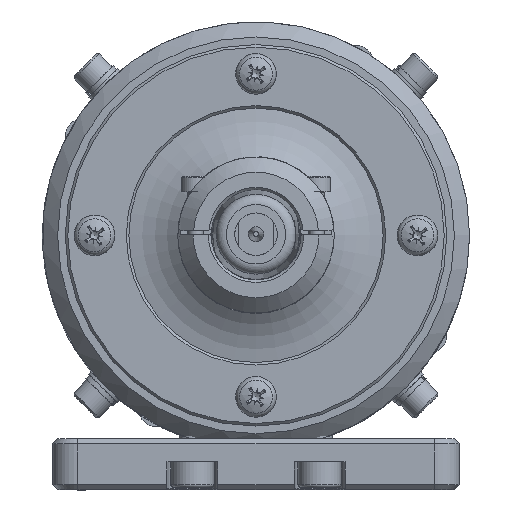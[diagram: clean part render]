
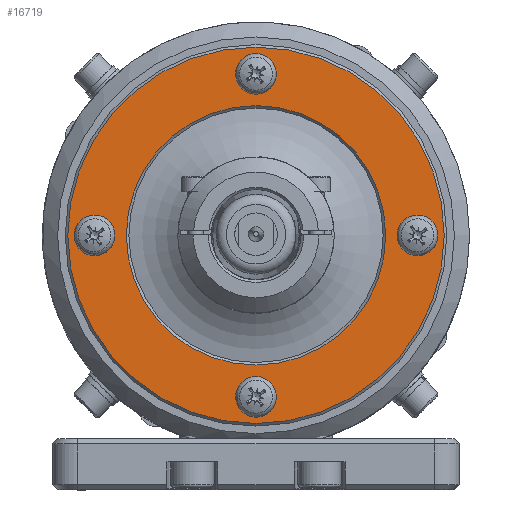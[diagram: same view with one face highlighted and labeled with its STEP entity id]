
A CAD part, top view. The second image highlights one B-rep face of the part: STEP entity #16719.
In plain terms, the highlighted planar face has unit normal (0, 0, 1).
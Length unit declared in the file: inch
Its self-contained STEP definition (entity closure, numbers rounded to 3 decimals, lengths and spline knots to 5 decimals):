
#536=FACE_BOUND('',#2703,.T.);
#537=FACE_BOUND('',#2704,.T.);
#538=FACE_BOUND('',#2705,.T.);
#539=FACE_BOUND('',#2706,.T.);
#540=FACE_BOUND('',#2707,.T.);
#770=PLANE('',#17988);
#1629=FACE_OUTER_BOUND('',#2702,.T.);
#2702=EDGE_LOOP('',(#11505));
#2703=EDGE_LOOP('',(#11506));
#2704=EDGE_LOOP('',(#11507));
#2705=EDGE_LOOP('',(#11508));
#2706=EDGE_LOOP('',(#11509));
#2707=EDGE_LOOP('',(#11510));
#5997=CIRCLE('',#17987,1.45669);
#5998=CIRCLE('',#17989,1.00394);
#5999=CIRCLE('',#17990,0.08858);
#6000=CIRCLE('',#17991,0.08858);
#6001=CIRCLE('',#17992,0.08858);
#6002=CIRCLE('',#17993,0.08858);
#7004=VERTEX_POINT('',#26043);
#7005=VERTEX_POINT('',#26047);
#7006=VERTEX_POINT('',#26049);
#7007=VERTEX_POINT('',#26051);
#7008=VERTEX_POINT('',#26053);
#7009=VERTEX_POINT('',#26055);
#8682=EDGE_CURVE('',#7004,#7004,#5997,.T.);
#8683=EDGE_CURVE('',#7005,#7005,#5998,.T.);
#8684=EDGE_CURVE('',#7006,#7006,#5999,.T.);
#8685=EDGE_CURVE('',#7007,#7007,#6000,.T.);
#8686=EDGE_CURVE('',#7008,#7008,#6001,.T.);
#8687=EDGE_CURVE('',#7009,#7009,#6002,.T.);
#11505=ORIENTED_EDGE('',*,*,#8682,.F.);
#11506=ORIENTED_EDGE('',*,*,#8683,.F.);
#11507=ORIENTED_EDGE('',*,*,#8684,.T.);
#11508=ORIENTED_EDGE('',*,*,#8685,.T.);
#11509=ORIENTED_EDGE('',*,*,#8686,.T.);
#11510=ORIENTED_EDGE('',*,*,#8687,.T.);
#16719=ADVANCED_FACE('',(#1629,#536,#537,#538,#539,#540),#770,.T.);
#17987=AXIS2_PLACEMENT_3D('',#26045,#20583,#20584);
#17988=AXIS2_PLACEMENT_3D('',#26046,#20585,#20586);
#17989=AXIS2_PLACEMENT_3D('',#26048,#20587,#20588);
#17990=AXIS2_PLACEMENT_3D('',#26050,#20589,#20590);
#17991=AXIS2_PLACEMENT_3D('',#26052,#20591,#20592);
#17992=AXIS2_PLACEMENT_3D('',#26054,#20593,#20594);
#17993=AXIS2_PLACEMENT_3D('',#26056,#20595,#20596);
#20583=DIRECTION('center_axis',(0.,0.,
-1.));
#20584=DIRECTION('ref_axis',(0.,1.,0.));
#20585=DIRECTION('center_axis',(0.,0.,
1.));
#20586=DIRECTION('ref_axis',(0.,-1.,0.));
#20587=DIRECTION('center_axis',(0.,0.,
1.));
#20588=DIRECTION('ref_axis',(0.,1.,0.));
#20589=DIRECTION('center_axis',(0.,0.,
-1.));
#20590=DIRECTION('ref_axis',(0.,-1.,0.));
#20591=DIRECTION('center_axis',(0.,0.,
-1.));
#20592=DIRECTION('ref_axis',(0.,-1.,0.));
#20593=DIRECTION('center_axis',(0.,0.,
-1.));
#20594=DIRECTION('ref_axis',(0.,-1.,0.));
#20595=DIRECTION('center_axis',(0.,0.,
-1.));
#20596=DIRECTION('ref_axis',(0.,-1.,0.));
#26043=CARTESIAN_POINT('',(0.,-1.45669,0.66929));
#26045=CARTESIAN_POINT('Origin',(0.,0.,
0.66929));
#26046=CARTESIAN_POINT('Origin',(0.,0.,
0.66929));
#26047=CARTESIAN_POINT('',(0.,-1.00394,0.66929));
#26048=CARTESIAN_POINT('Origin',(0.,0.,
0.66929));
#26049=CARTESIAN_POINT('',(-1.25,0.08858,0.66929));
#26050=CARTESIAN_POINT('Origin',(-1.25,0.,0.66929));
#26051=CARTESIAN_POINT('',(1.25,0.08858,0.66929));
#26052=CARTESIAN_POINT('Origin',(1.25,0.,0.66929));
#26053=CARTESIAN_POINT('',(0.,-1.16142,0.66929));
#26054=CARTESIAN_POINT('Origin',(0.,-1.25,0.66929));
#26055=CARTESIAN_POINT('',(0.,1.33858,0.66929));
#26056=CARTESIAN_POINT('Origin',(0.,1.25,0.66929));
